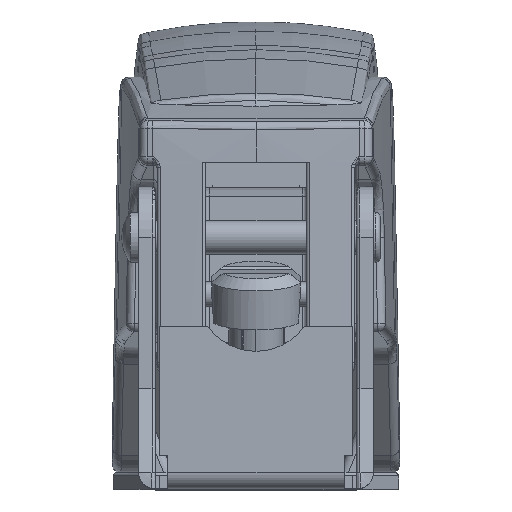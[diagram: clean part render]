
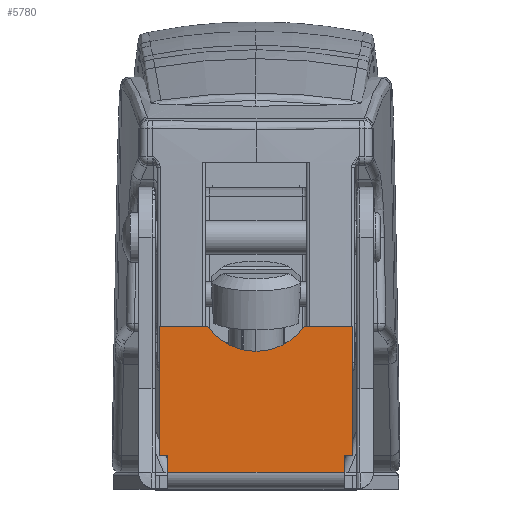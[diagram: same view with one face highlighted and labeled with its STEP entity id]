
A CAD part, top view. The second image highlights one B-rep face of the part: STEP entity #5780.
In plain terms, the highlighted planar face has unit normal (0, 0, 1).
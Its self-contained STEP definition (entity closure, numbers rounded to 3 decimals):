
#1481=DIRECTION('',(1.,0.,0.));
#1482=VECTOR('',#1481,10.5);
#1483=CARTESIAN_POINT('',(-5.25,1.,1.));
#1484=LINE('',#1483,#1482);
#1485=DIRECTION('',(0.,1.,0.));
#1486=VECTOR('',#1485,1.);
#1487=CARTESIAN_POINT('',(-5.25,1.,1.));
#1488=LINE('',#1487,#1486);
#1489=DIRECTION('',(-1.,0.,0.));
#1490=VECTOR('',#1489,0.5);
#1491=CARTESIAN_POINT('',(-5.25,2.,1.));
#1492=LINE('',#1491,#1490);
#1493=DIRECTION('',(0.,1.,0.));
#1494=VECTOR('',#1493,7.7);
#1495=CARTESIAN_POINT('',(-5.75,2.,1.));
#1496=LINE('',#1495,#1494);
#1497=DIRECTION('',(1.,0.,0.));
#1498=VECTOR('',#1497,2.878);
#1499=CARTESIAN_POINT('',(-5.75,9.7,1.));
#1500=LINE('',#1499,#1498);
#1501=CARTESIAN_POINT('',(0.,11.7,1.));
#1502=DIRECTION('',(0.,0.,1.));
#1503=DIRECTION('',(-0.821,-0.571,0.));
#1504=AXIS2_PLACEMENT_3D('',#1501,#1502,#1503);
#1506=DIRECTION('',(1.,0.,0.));
#1507=VECTOR('',#1506,2.878);
#1508=CARTESIAN_POINT('',(2.872,9.7,1.));
#1509=LINE('',#1508,#1507);
#1510=DIRECTION('',(0.,-1.,0.));
#1511=VECTOR('',#1510,7.7);
#1512=CARTESIAN_POINT('',(5.75,9.7,1.));
#1513=LINE('',#1512,#1511);
#1514=DIRECTION('',(-1.,0.,0.));
#1515=VECTOR('',#1514,0.5);
#1516=CARTESIAN_POINT('',(5.75,2.,1.));
#1517=LINE('',#1516,#1515);
#1518=DIRECTION('',(0.,-1.,0.));
#1519=VECTOR('',#1518,1.);
#1520=CARTESIAN_POINT('',(5.25,2.,1.));
#1521=LINE('',#1520,#1519);
#3133=CARTESIAN_POINT('',(-5.25,1.,1.));
#3134=VERTEX_POINT('',#3133);
#3139=CARTESIAN_POINT('',(-5.25,2.,1.));
#3140=VERTEX_POINT('',#3139);
#3143=CARTESIAN_POINT('',(-5.75,2.,1.));
#3144=VERTEX_POINT('',#3143);
#3169=CARTESIAN_POINT('',(5.25,1.,1.));
#3170=VERTEX_POINT('',#3169);
#3410=CARTESIAN_POINT('',(-5.75,9.7,1.));
#3411=VERTEX_POINT('',#3410);
#3412=CARTESIAN_POINT('',(-2.872,9.7,1.));
#3413=VERTEX_POINT('',#3412);
#3414=CARTESIAN_POINT('',(2.872,9.7,1.));
#3415=VERTEX_POINT('',#3414);
#3416=CARTESIAN_POINT('',(5.75,9.7,1.));
#3417=VERTEX_POINT('',#3416);
#3418=CARTESIAN_POINT('',(5.75,2.,1.));
#3419=VERTEX_POINT('',#3418);
#3420=CARTESIAN_POINT('',(5.25,2.,1.));
#3421=VERTEX_POINT('',#3420);
#5756=CARTESIAN_POINT('',(0.,-21.5,1.));
#5757=DIRECTION('',(0.,0.,1.));
#5758=DIRECTION('',(0.,-1.,0.));
#5759=AXIS2_PLACEMENT_3D('',#5756,#5757,#5758);
#5760=PLANE('',#5759);
#5761=ORIENTED_EDGE('',*,*,#5750,.F.);
#5762=ORIENTED_EDGE('',*,*,#4343,.T.);
#5763=ORIENTED_EDGE('',*,*,#4358,.T.);
#5765=ORIENTED_EDGE('',*,*,#5764,.T.);
#5767=ORIENTED_EDGE('',*,*,#5766,.T.);
#5769=ORIENTED_EDGE('',*,*,#5768,.T.);
#5771=ORIENTED_EDGE('',*,*,#5770,.T.);
#5773=ORIENTED_EDGE('',*,*,#5772,.T.);
#5775=ORIENTED_EDGE('',*,*,#5774,.T.);
#5777=ORIENTED_EDGE('',*,*,#5776,.T.);
#5778=EDGE_LOOP('',(#5761,#5762,#5763,#5765,#5767,#5769,#5771,#5773,#5775,
#5777));
#5779=FACE_OUTER_BOUND('',#5778,.F.);
#5780=ADVANCED_FACE('',(#5779),#5760,.T.);
#1505=CIRCLE('',#1504,3.5);
#4343=EDGE_CURVE('',#3134,#3140,#1488,.T.);
#4358=EDGE_CURVE('',#3140,#3144,#1492,.T.);
#5750=EDGE_CURVE('',#3134,#3170,#1484,.T.);
#5764=EDGE_CURVE('',#3144,#3411,#1496,.T.);
#5766=EDGE_CURVE('',#3411,#3413,#1500,.T.);
#5768=EDGE_CURVE('',#3413,#3415,#1505,.T.);
#5770=EDGE_CURVE('',#3415,#3417,#1509,.T.);
#5772=EDGE_CURVE('',#3417,#3419,#1513,.T.);
#5774=EDGE_CURVE('',#3419,#3421,#1517,.T.);
#5776=EDGE_CURVE('',#3421,#3170,#1521,.T.);
